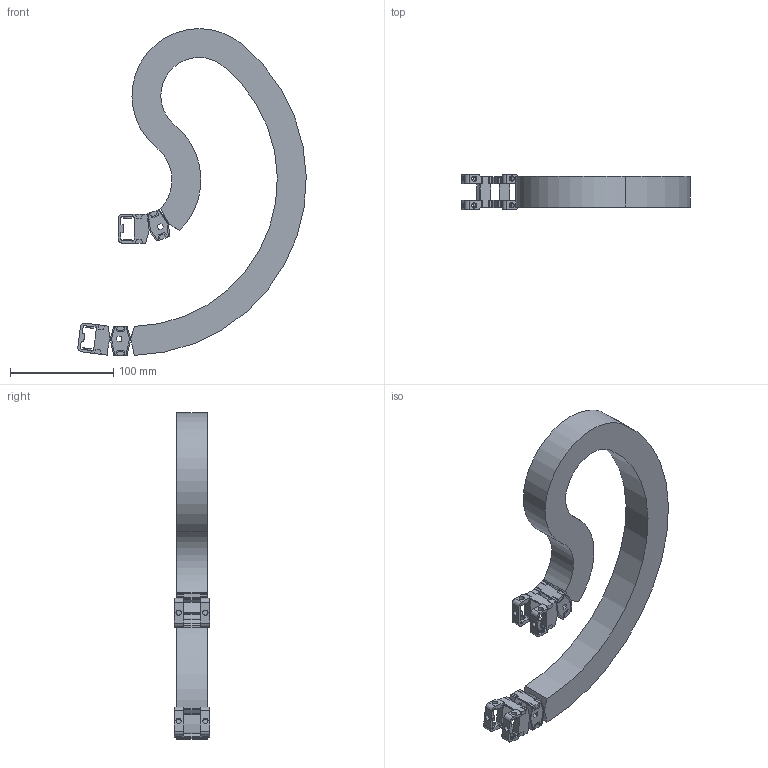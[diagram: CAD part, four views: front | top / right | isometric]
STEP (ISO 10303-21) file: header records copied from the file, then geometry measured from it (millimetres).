
FILE_DESCRIPTION( ( 'STEP AP214' ), '1' );
FILE_NAME( 'e:/temp/worker_37/temp/exporttempdir_5820_84_T6GVd/format_2/RV020CRA30364030130150-0016893.2245.stp', '2021-07-23T16:14:44', ( 'License CC BY-ND 4.0' ), ( 'CADENAS' ), ' ', 'PARTsolutions', ' ' );
FILE_SCHEMA( ( 'AUTOMOTIVE_DESIGN { 1 0 10303 214 1 1 1 1 }' ) );
Length unit declared in the file: millimetre
Products named in the file (4): RV020CRA30364030130150-0016893.2245; _RV020CRA30364030130150-0016563.52-Chain; _RV020CR-20-16; _RV 020CR_FB-30
Assembly tree (5 placements, depth 2):
  RV020CRA30364030130150-0016893.2245
    _RV020CRA30364030130150-0016563.52-Chain
    _RV020CR-20-16  x2
    _RV 020CR_FB-30  x2
Bounding box: 221.3 x 34 x 316.56 mm (x, y, z)
Volume: 361013.2 mm3; surface area: 140631.6 mm2
Topology: 5 solids, 5 shells, 600 faces, 1724 edges, 1124 vertices
Faces by surface type: plane 480, cylinder 120
Full cylindrical faces by diameter (mm): 5 x12
Entity records: 12586 total; most frequent: CARTESIAN_POINT 1776, ORIENTED_EDGE 1764, DIRECTION 1656, EDGE_CURVE 882, LINE 740, VECTOR 740, VERTEX_POINT 578, AXIS2_PLACEMENT_3D 458
